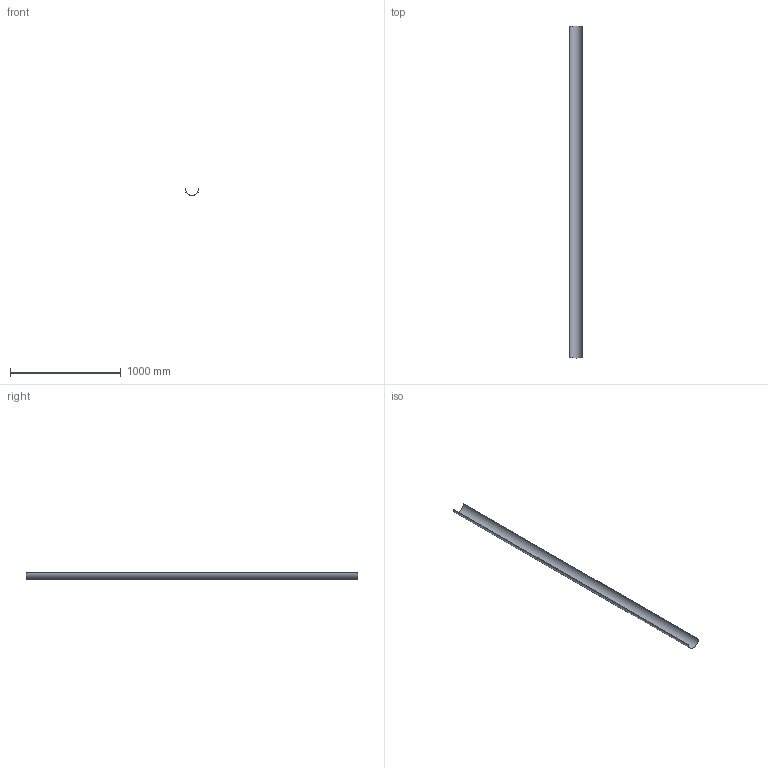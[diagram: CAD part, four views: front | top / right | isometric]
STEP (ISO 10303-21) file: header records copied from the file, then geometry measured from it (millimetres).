
FILE_DESCRIPTION(/* description */ (''),/* implementation_level */ '2;1');
FILE_NAME(/* name */ 'Z:\Geberit\Export\NewStep\368850.stp',/* time_stamp */ '2014-04-02T08:01:38+02:00',/* author */ ('bruh'),/* organization */ (''),/* preprocessor_version */ 'ST-DEVELOPER v15.2',/* originating_system */ 'Autodesk Inventor 2014',/* authorisation */ '');
FILE_SCHEMA (('AUTOMOTIVE_DESIGN { 1 0 10303 214 3 1 1 }'));
Length unit declared in the file: millimetre
Products named in the file (1): 368850
Bounding box: 126.5 x 3000 x 63.25 mm (x, y, z)
Volume: 444437.2 mm3; surface area: 1189962.1 mm2
Topology: 1 solids, 1 shells, 6 faces, 12 edges, 8 vertices
Faces by surface type: plane 4, cylinder 2
Entity records: 187 total; most frequent: DIRECTION 30, CARTESIAN_POINT 27, ORIENTED_EDGE 24, EDGE_CURVE 12, AXIS2_PLACEMENT_3D 11, LINE 8, VECTOR 8, VERTEX_POINT 8
